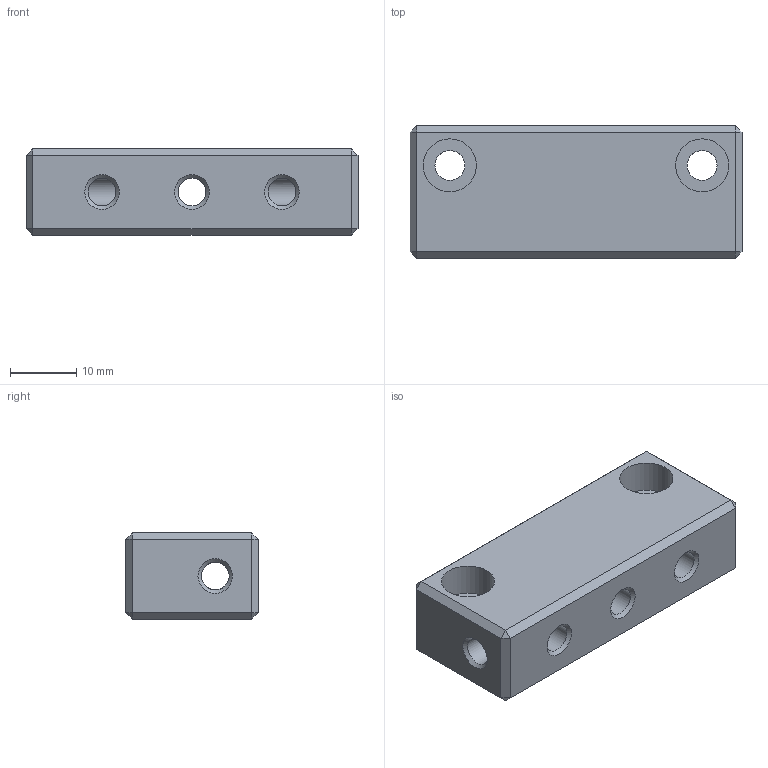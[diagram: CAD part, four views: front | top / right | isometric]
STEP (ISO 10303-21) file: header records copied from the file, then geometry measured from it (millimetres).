
FILE_DESCRIPTION (( 'STEP AP214' ), '1' );
FILE_NAME ('388.STEP', '2022-04-26T13:08:22', ( '' ), ( '' ), 'SwSTEP 2.0', 'SolidWorks 2022', '' );
FILE_SCHEMA (( 'AUTOMOTIVE_DESIGN' ));
Length unit declared in the file: millimetre
Products named in the file (1): 388
Bounding box: 50 x 20 x 13 mm (x, y, z)
Volume: 10676.8 mm3; surface area: 4996 mm2
Topology: 1 solids, 1 shells, 48 faces, 100 edges, 54 vertices
Faces by surface type: plane 30, cylinder 12, cone 6
Full cylindrical faces by diameter (mm): 4.2 x6, 4.5 x2, 8 x4
Entity records: 1252 total; most frequent: CARTESIAN_POINT 207, DIRECTION 194, ORIENTED_EDGE 160, EDGE_LOOP 82, EDGE_CURVE 80, AXIS2_PLACEMENT_3D 73, FACE_OUTER_BOUND 60, VERTEX_POINT 54
